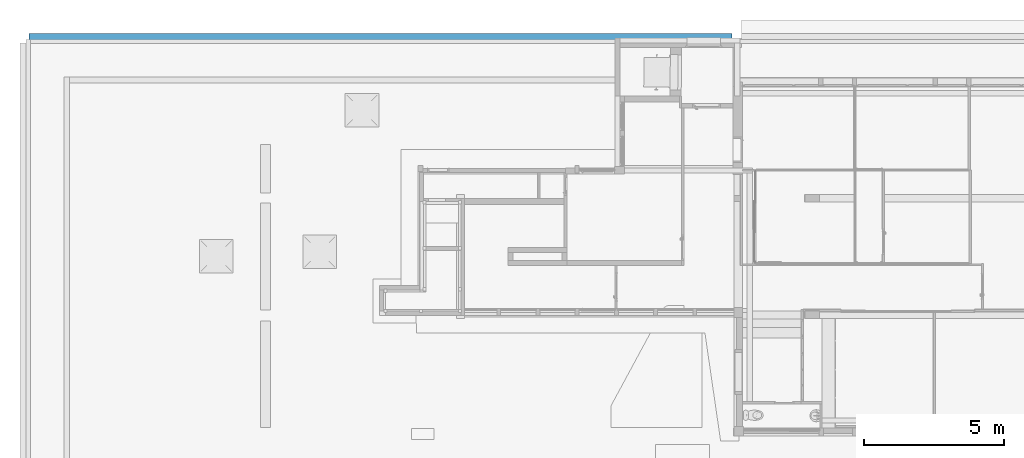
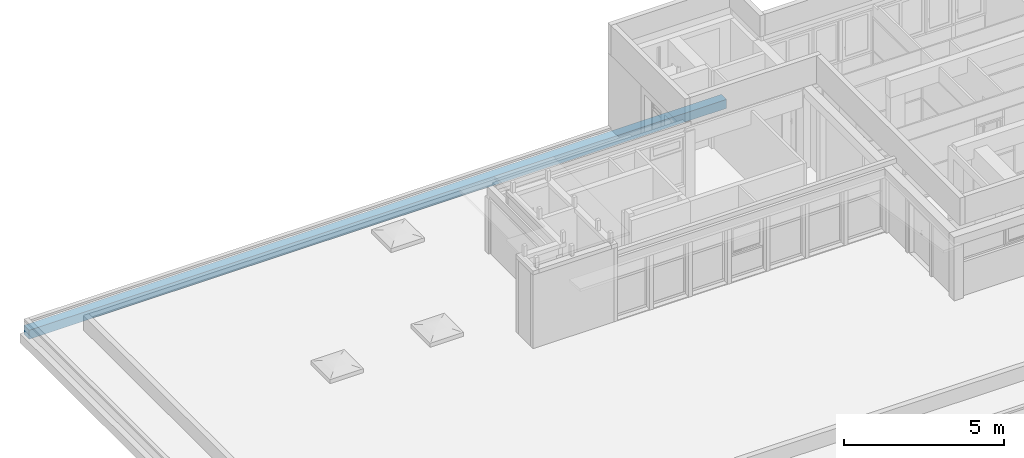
# One storey, part 9 of 49: 1 beam.
"""IFC4 building model written with IfcOpenShell, lengths in metres."""

import ifcopenshell
import ifcopenshell.guid

model = None  # the IFC model being written
_history = None  # IfcOwnerHistory: only IFC2X3 demands one
_inside = {}  # id of a spatial element -> (the spatial element, [elements in it])
_under = {}  # id of a project, library or spatial element -> (it, [spatial elements below it])
_declared = {}  # id of a project -> (the project, [libraries it declares])
_typed = {}  # id of a type object -> (the type object, [elements of that type])
_made_of = {}  # id of a material, layer set ... -> (it, [elements and type objects made of it])


def new_model(schema):
    """Start an empty IFC model of exactly this schema.

    Asked for "IFC4X3", IfcOpenShell would pick the latest addendum, in which some entities
    have other attributes; the version numbers below select the first issue.
    IFC2X3 requires an IfcOwnerHistory on every rooted entity: one is made here for all.
    """
    global model, _history
    if schema == "IFC4X3":
        model = ifcopenshell.file(schema_version=(4, 3, 0, 0))
    else:
        model = ifcopenshell.file(schema=schema)
    _inside.clear()
    _under.clear()
    _declared.clear()
    _typed.clear()
    _made_of.clear()
    _history = None
    if model.schema == "IFC2X3":
        org = make("IfcOrganization", Name="unknown")
        user = make(
            "IfcPersonAndOrganization",
            ThePerson=make("IfcPerson", FamilyName="unknown"),
            TheOrganization=org,
        )
        app = make(
            "IfcApplication",
            ApplicationDeveloper=org,
            Version="unknown",
            ApplicationFullName="unknown",
            ApplicationIdentifier="unknown",
        )
        _history = make(
            "IfcOwnerHistory",
            OwningUser=user,
            OwningApplication=app,
            ChangeAction="ADDED",
            CreationDate=0,
        )
    return model


def make(cls, **values):
    """One entity of the class cls with the attributes given. An attribute that is None is left unset."""
    return model.create_entity(
        cls, **{name: value for name, value in values.items() if value is not None}
    )


def entity(cls, *values):
    """Any entity or typed value of the class cls, its attributes in the order of the schema. None: left unset."""
    e = model.create_entity(cls)
    for i, value in enumerate(values):
        if value is not None:
            e[i] = value
    return e


def rooted(cls, **values):
    """An entity with a GlobalId (a new one), such as an element, a storey or a relation."""
    return make(cls, GlobalId=ifcopenshell.guid.new(), OwnerHistory=_history, **values)


def si_unit(unit_type, name, prefix=None):
    """IfcSIUnit, for example si_unit("LENGTHUNIT", "METRE", prefix="MILLI")."""
    return make("IfcSIUnit", UnitType=unit_type, Prefix=prefix, Name=name)


def converted_unit(unit_type, name, factor, base, dimensions=None, offset=None):
    """IfcConversionBasedUnit, such as the inch: factor (a typed value) times the base unit."""
    return make(
        "IfcConversionBasedUnit"
        if offset is None
        else "IfcConversionBasedUnitWithOffset",
        ConversionOffset=offset,
        Dimensions=None
        if dimensions is None
        else entity("IfcDimensionalExponents", *dimensions),
        UnitType=unit_type,
        Name=name,
        ConversionFactor=make(
            "IfcMeasureWithUnit", ValueComponent=factor, UnitComponent=base
        ),
    )


def derived_unit(unit_type, elements):
    """IfcDerivedUnit: a product of units, each with its exponent."""
    return make(
        "IfcDerivedUnit",
        Elements=[
            make("IfcDerivedUnitElement", Unit=unit, Exponent=power)
            for unit, power in elements
        ],
        UnitType=unit_type,
    )


def assignment(units):
    """IfcUnitAssignment: the units of a project."""
    return None if units is None else make("IfcUnitAssignment", Units=units)


def point(xyz):
    """IfcCartesianPoint."""
    return None if xyz is None else make("IfcCartesianPoint", Coordinates=xyz)


def direction(xyz):
    """IfcDirection."""
    return None if xyz is None else make("IfcDirection", DirectionRatios=xyz)


def frame(location, z_axis=None, x_axis=None):
    """IfcAxis2Placement3D, a coordinate frame: its origin and axes. An axis left out is left unset."""
    return make(
        "IfcAxis2Placement3D",
        Location=point(location),
        Axis=direction(z_axis),
        RefDirection=direction(x_axis),
    )


def origin():
    """The frame at (0, 0, 0) with its axes left unset."""
    return frame((0.0, 0.0, 0.0))


def place(relative_to, where):
    """IfcLocalPlacement: puts the frame where relative to a parent placement (None: the world)."""
    return make(
        "IfcLocalPlacement", PlacementRelTo=relative_to, RelativePlacement=where
    )


def context(
    kind, dimensions, precision=None, world=None, true_north=None, identifier=None
):
    """IfcGeometricRepresentationContext, for example the 3D "Model" context."""
    return make(
        "IfcGeometricRepresentationContext",
        ContextIdentifier=identifier,
        ContextType=kind,
        CoordinateSpaceDimension=dimensions,
        Precision=precision,
        WorldCoordinateSystem=world,
        TrueNorth=true_north,
    )


def subcontext(parent, identifier, kind, view, scale=None):
    """IfcGeometricRepresentationSubContext, for example "Body" below "Model"."""
    return make(
        "IfcGeometricRepresentationSubContext",
        ContextIdentifier=identifier,
        ContextType=kind,
        ParentContext=parent,
        TargetScale=scale,
        TargetView=view,
    )


def project(units=None, contexts=None):
    """IfcProject with its units and contexts."""
    return rooted(
        "IfcProject",
        Name="project",
        RepresentationContexts=contexts,
        UnitsInContext=assignment(units),
    )


def spatial(cls, under=None, at=None, **own):
    """A site, building, storey or space (cls), placed at a placement, below another one or the project."""
    s = rooted(cls, ObjectPlacement=at, **own)
    if under is not None:
        _under.setdefault(under.id(), (under, []))[1].append(s)
    return s


def point_list(points):
    """IfcCartesianPointList2D or 3D."""
    cls = (
        "IfcCartesianPointList2D" if len(points[0]) == 2 else "IfcCartesianPointList3D"
    )
    return make(cls, CoordList=points)


def indexed_curve(points, segments=None, self_intersect=None):
    """IfcIndexedPolyCurve: lines and arcs through numbered points (the first is 1)."""
    return make(
        "IfcIndexedPolyCurve",
        Points=point_list(points),
        Segments=segments,
        SelfIntersect=self_intersect,
    )


def outline(outer, holes=None, kind="AREA"):
    """IfcArbitraryClosedProfileDef: a profile drawn as a closed curve; with holes, ...WithVoids."""
    if holes is None:
        return make("IfcArbitraryClosedProfileDef", ProfileType=kind, OuterCurve=outer)
    return make(
        "IfcArbitraryProfileDefWithVoids",
        ProfileType=kind,
        OuterCurve=outer,
        InnerCurves=holes,
    )


def extrude(swept, where, along, depth):
    """IfcExtrudedAreaSolid: the profile swept, set in the frame where, extruded along a direction by depth."""
    return make(
        "IfcExtrudedAreaSolid",
        SweptArea=swept,
        Position=where,
        ExtrudedDirection=direction(along),
        Depth=depth,
    )


def shape(context_of_items, identifier, shape_type, items):
    """IfcShapeRepresentation: the items that make up one representation, for example the "Body"."""
    return make(
        "IfcShapeRepresentation",
        ContextOfItems=context_of_items,
        RepresentationIdentifier=identifier,
        RepresentationType=shape_type,
        Items=items,
    )


def source(mapping_origin, context_of_items, identifier, shape_type, items):
    """IfcRepresentationMap: a shape defined once, which mapped items show again and again."""
    return make(
        "IfcRepresentationMap",
        MappingOrigin=mapping_origin,
        MappedRepresentation=shape(context_of_items, identifier, shape_type, items),
    )


def transform(
    local_origin,
    x_axis=None,
    y_axis=None,
    z_axis=None,
    scale=None,
    scale2=None,
    scale3=None,
    uniform=True,
):
    """IfcCartesianTransformationOperator3D, or its non-uniform kind. x_axis, y_axis, z_axis: its Axis1, 2, 3."""
    if uniform:
        return make(
            "IfcCartesianTransformationOperator3D",
            Axis1=direction(x_axis),
            Axis2=direction(y_axis),
            LocalOrigin=point(local_origin),
            Scale=scale,
            Axis3=direction(z_axis),
        )
    return make(
        "IfcCartesianTransformationOperator3DnonUniform",
        Axis1=direction(x_axis),
        Axis2=direction(y_axis),
        LocalOrigin=point(local_origin),
        Scale=scale,
        Axis3=direction(z_axis),
        Scale2=scale2,
        Scale3=scale3,
    )


def mapped(mapping_source, mapping_target):
    """IfcMappedItem: shows the shape of a source again, moved by a transform."""
    return make(
        "IfcMappedItem", MappingSource=mapping_source, MappingTarget=mapping_target
    )


def material(Name=None, Category=None):
    """IfcMaterial."""
    return make("IfcMaterial", Name=Name, Category=Category)


def made_of(thing, what):
    """Note that an element or type object is made of a material, layer set ...; save() writes the relation."""
    if what is not None:
        _made_of.setdefault(what.id(), (what, []))[1].append(thing)
    return thing


def type_object(cls, material=None, **own):
    """A type object (cls), such as IfcWallType, which elements share."""
    return made_of(rooted(cls, **own), material)


def type_shapes(of_type, sources):
    """Give a type object the sources (RepresentationMaps) that its elements show as mapped items."""
    of_type.RepresentationMaps = sources


def element(
    cls,
    number,
    at=None,
    inside=None,
    cuts=None,
    type_object=None,
    material=None,
    context=None,
    identifier="Body",
    shape_type=None,
    held_by="IfcProductDefinitionShape",
    body=None,
    shapes=None,
    **own,
):
    """One element of the class cls, such as IfcWall. Its Tag is "e" and its number.

    at: its placement. inside: the storey or other place that contains it. cuts: it is an
    opening in that element (IfcRelVoidsElement). A single representation is given by context,
    identifier, shape_type and body (its items); several are given by shapes. held_by: the class
    of the entity that holds the representations. save() writes the other relations.
    """
    e = rooted(cls, Tag="e%d" % number, ObjectPlacement=at, **own)
    if body is not None:
        shapes = [shape(context, identifier, shape_type, body)]
    if shapes is not None:
        e.Representation = make(held_by, Representations=shapes)
    if inside is not None:
        _inside.setdefault(inside.id(), (inside, []))[1].append(e)
    if cuts is not None:
        rooted(
            "IfcRelVoidsElement", RelatingBuildingElement=cuts, RelatedOpeningElement=e
        )
    if type_object is not None:
        _typed.setdefault(type_object.id(), (type_object, []))[1].append(e)
    return made_of(e, material)


def aggregate(whole, parts):
    """IfcRelAggregates: a whole, such as a stair, and the parts it consists of."""
    return rooted("IfcRelAggregates", RelatingObject=whole, RelatedObjects=parts)


def save(model, path):
    """Write the relations noted so far, then the file.

    IfcRelAggregates (storeys below a building ...), IfcRelContainedInSpatialStructure (elements
    in a storey), IfcRelDefinesByType, IfcRelAssociatesMaterial and IfcRelDeclares: one each for
    every whole, place, type object, material and project.
    """
    for whole, parts in _under.values():
        aggregate(whole, parts)
    for where, things in _inside.values():
        rooted(
            "IfcRelContainedInSpatialStructure",
            RelatedElements=things,
            RelatingStructure=where,
        )
    for kind, things in _typed.values():
        rooted("IfcRelDefinesByType", RelatedObjects=things, RelatingType=kind)
    for what, things in _made_of.values():
        rooted("IfcRelAssociatesMaterial", RelatedObjects=things, RelatingMaterial=what)
    for by, libraries in _declared.values():
        rooted("IfcRelDeclares", RelatingContext=by, RelatedDefinitions=libraries)
    model.write(path)


model = new_model("IFC4")

# Units and contexts
model_context = context("Model", 3, precision=1e-05, world=origin(), true_north=direction((6.12303176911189e-17, 1.0)))
body_context = subcontext(model_context, "Body", "Model", "MODEL_VIEW")
ifc_project = project(units=[si_unit("LENGTHUNIT", "METRE"), si_unit("AREAUNIT", "SQUARE_METRE"), si_unit("VOLUMEUNIT", "CUBIC_METRE"), converted_unit("PLANEANGLEUNIT", "DEGREE", entity("IfcRatioMeasure", 0.0174532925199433), si_unit("PLANEANGLEUNIT", "RADIAN"), dimensions=[0, 0, 0, 0, 0, 0, 0]), si_unit("MASSUNIT", "GRAM", prefix="KILO"), derived_unit("MASSDENSITYUNIT", [(si_unit("MASSUNIT", "GRAM", prefix="KILO"), 1), (si_unit("LENGTHUNIT", "METRE"), -3)]), derived_unit("MOMENTOFINERTIAUNIT", [(si_unit("LENGTHUNIT", "METRE"), 4)]), si_unit("TIMEUNIT", "SECOND"), si_unit("FREQUENCYUNIT", "HERTZ"), si_unit("THERMODYNAMICTEMPERATUREUNIT", "DEGREE_CELSIUS"), derived_unit("THERMALTRANSMITTANCEUNIT", [(si_unit("MASSUNIT", "GRAM", prefix="KILO"), 1), (si_unit("THERMODYNAMICTEMPERATUREUNIT", "KELVIN"), -1), (si_unit("TIMEUNIT", "SECOND"), -3)]), derived_unit("VOLUMETRICFLOWRATEUNIT", [(si_unit("LENGTHUNIT", "METRE"), 3), (si_unit("TIMEUNIT", "SECOND"), -1)]), si_unit("ELECTRICCURRENTUNIT", "AMPERE"), si_unit("ELECTRICVOLTAGEUNIT", "VOLT"), si_unit("POWERUNIT", "WATT"), si_unit("FORCEUNIT", "NEWTON", prefix="KILO"), si_unit("ILLUMINANCEUNIT", "LUX"), si_unit("LUMINOUSFLUXUNIT", "LUMEN"), si_unit("LUMINOUSINTENSITYUNIT", "CANDELA"), derived_unit("USERDEFINED", [(si_unit("MASSUNIT", "GRAM", prefix="KILO"), -1), (si_unit("LENGTHUNIT", "METRE"), -2), (si_unit("TIMEUNIT", "SECOND"), 3), (si_unit("LUMINOUSFLUXUNIT", "LUMEN"), 1)]), derived_unit("LINEARVELOCITYUNIT", [(si_unit("LENGTHUNIT", "METRE"), 1), (si_unit("TIMEUNIT", "SECOND"), -1)]), si_unit("PRESSUREUNIT", "PASCAL"), derived_unit("USERDEFINED", [(si_unit("LENGTHUNIT", "METRE"), -2), (si_unit("MASSUNIT", "GRAM", prefix="KILO"), 1), (si_unit("TIMEUNIT", "SECOND"), -2)]), derived_unit("LINEARFORCEUNIT", [(si_unit("MASSUNIT", "GRAM", prefix="KILO"), 1), (si_unit("LENGTHUNIT", "METRE"), 1), (si_unit("TIMEUNIT", "SECOND"), -2), (si_unit("LENGTHUNIT", "METRE"), -1)]), derived_unit("PLANARFORCEUNIT", [(si_unit("MASSUNIT", "GRAM", prefix="KILO"), 1), (si_unit("LENGTHUNIT", "METRE"), 1), (si_unit("TIMEUNIT", "SECOND"), -2), (si_unit("LENGTHUNIT", "METRE"), -2)])], contexts=[model_context])

# Site, building, storey
site_placement = place(None, origin())
site = spatial("IfcSite", under=ifc_project, at=site_placement, Name="Default", CompositionType="ELEMENT")
building_placement = place(site_placement, origin())
building = spatial("IfcBuilding", under=site, at=building_placement, Name="HOTEL CONSULAIRE BOULOGNE SUR MER", CompositionType="ELEMENT")
storey_placement = place(building_placement, frame((0.0, 0.0, 6.81974152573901)))
storey = spatial("IfcBuildingStorey", under=building, at=storey_placement, Name="Niveau 2", CompositionType="ELEMENT", Elevation=6.81974152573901)

# Beam
ifc_material = material(Name="Béton - Béton coulé sur place", Category="Béton")
beam_type = type_object("IfcBeamType", Name="Poutre rectangulaire - Béton:320x340", PredefinedType="BEAM", material=ifc_material)
shared_shape = source(origin(), body_context, "Body", "SweptSolid", [
    extrude(outline(indexed_curve([(-0.170000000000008, -0.159999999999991), (0.169999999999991, -0.159999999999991), (0.17000000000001, 0.160000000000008), (-0.16999999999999, 0.160000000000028), (-0.170000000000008, -0.159999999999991)], self_intersect=False)), frame((-13.7939806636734, -9.91463235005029, 6.46174152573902), z_axis=(1.0, 0.0, 0.0), x_axis=(0.0, 0.0, -1.0)), (0.0, 0.0, 1.0), 25.1006189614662),
])
type_shapes(beam_type, [shared_shape])
beam_placement = place(storey_placement, frame((0.0, 0.0, -6.81974152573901)))
element("IfcBeam", 1, at=beam_placement, inside=storey, type_object=beam_type, material=ifc_material, Name="Poutre rectangulaire - Béton:320x340", ObjectType="Poutre rectangulaire - Béton:320x340", PredefinedType="BEAM", context=body_context, shape_type="MappedRepresentation", body=[
    mapped(shared_shape, transform((0.0, 0.0, 0.0), scale=1.0)),
])

save(model, "model.ifc")
